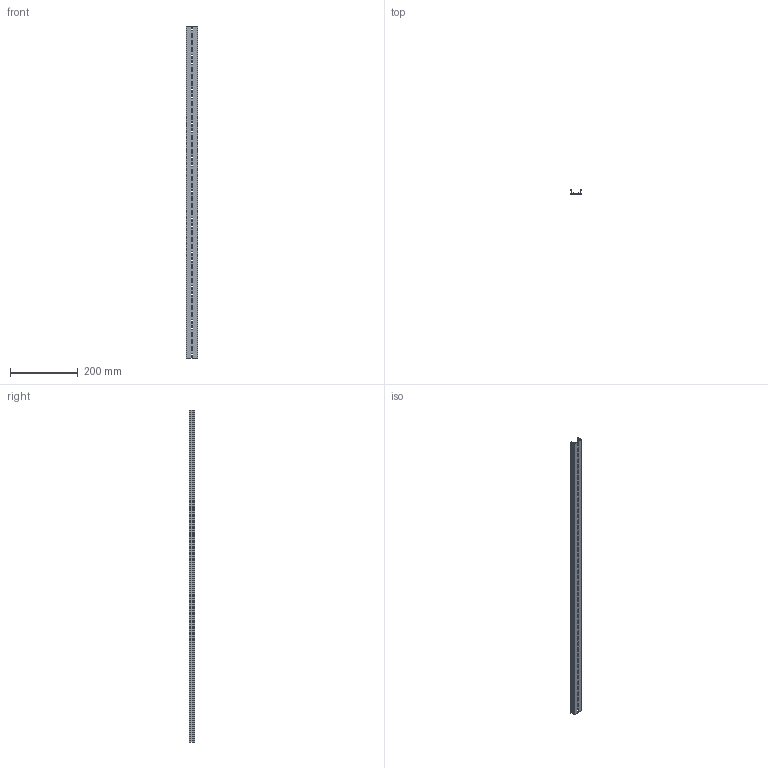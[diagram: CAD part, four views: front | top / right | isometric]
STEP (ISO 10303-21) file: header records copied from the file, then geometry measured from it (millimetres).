
FILE_DESCRIPTION(/* description */ (''),/* implementation_level */ '2;1');
FILE_NAME(/* name */ '22650-(TKB KD-49)HP 3D.stp',/* time_stamp */ '2024-12-05T14:29:12+09:00',/* author */ ('usercadg104'),/* organization */ (''),/* preprocessor_version */ 'ST-DEVELOPER v19.2',/* originating_system */ 'Autodesk Inventor 2023',/* authorisation */ '');
FILE_SCHEMA (('CONFIG_CONTROL_DESIGN'));
Length unit declared in the file: millimetre
Products named in the file (1): TKB KD-3(林)
Bounding box: 35 x 15 x 977 mm (x, y, z)
Volume: 114311.8 mm3; surface area: 131937.5 mm2
Topology: 1 solids, 1 shells, 236 faces, 702 edges, 468 vertices
Faces by surface type: plane 134, cylinder 102
Entity records: 8189 total; most frequent: CARTESIAN_POINT 1407, ORIENTED_EDGE 1404, DIRECTION 1380, EDGE_CURVE 702, LINE 498, VECTOR 498, VERTEX_POINT 468, AXIS2_PLACEMENT_3D 441
